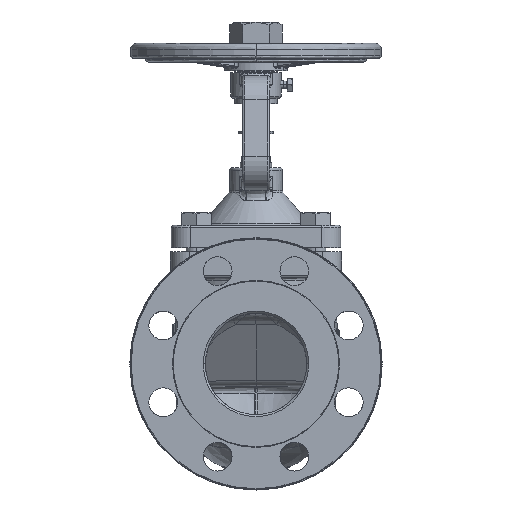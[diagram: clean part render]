
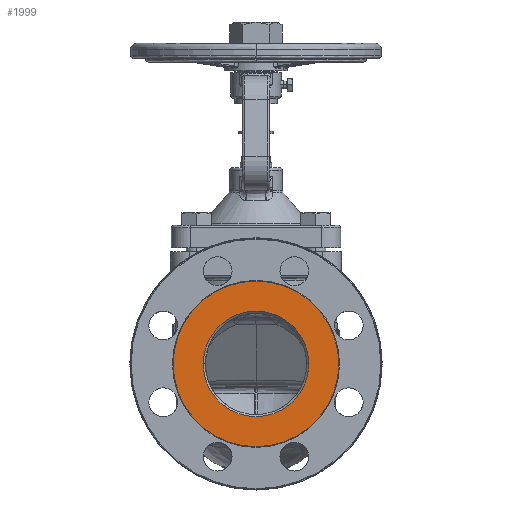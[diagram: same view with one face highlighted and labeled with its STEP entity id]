
A CAD part, left-side view. The second image highlights one B-rep face of the part: STEP entity #1999.
In plain terms, the highlighted planar face has unit normal (-1, 0, 0).
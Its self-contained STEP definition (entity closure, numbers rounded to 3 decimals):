
#1999=ADVANCED_FACE('',(#17693,#17694),#17692,.F.);
#17692=PLANE('',#48419);
#17693=FACE_OUTER_BOUND('',#48420,.T.);
#17694=FACE_BOUND('',#48421,.T.);
#48416=CARTESIAN_POINT('',(-159.,-124.315,142.));
#48417=DIRECTION('',(1.,0.,0.));
#48418=DIRECTION('',(0.,0.,-1.));
#48419=AXIS2_PLACEMENT_3D('',#48416,#48417,#48418);
#48420=EDGE_LOOP('',(#67622,#67623));
#48421=EDGE_LOOP('',(#67624,#67625));
#67622=ORIENTED_EDGE('',*,*,#74057,.F.);
#67623=ORIENTED_EDGE('',*,*,#74058,.F.);
#67624=ORIENTED_EDGE('',*,*,#74059,.T.);
#67625=ORIENTED_EDGE('',*,*,#74060,.T.);
#74057=EDGE_CURVE('',#101085,#101086,#101087,.T.);
#74058=EDGE_CURVE('',#101086,#101085,#101093,.T.);
#74059=EDGE_CURVE('',#101099,#101100,#101101,.T.);
#74060=EDGE_CURVE('',#101100,#101099,#101107,.T.);
#101085=VERTEX_POINT('',#133221);
#101086=VERTEX_POINT('',#133222);
#101087=CIRCLE('',#133226,66.);
#101093=CIRCLE('',#133230,66.);
#101099=VERTEX_POINT('',#133231);
#101100=VERTEX_POINT('',#133232);
#101101=CIRCLE('',#133236,42.);
#101107=CIRCLE('',#133240,42.);
#133221=CARTESIAN_POINT('',(-159.,0.,66.));
#133222=CARTESIAN_POINT('',(-159.,0.,-66.));
#133223=CARTESIAN_POINT('',(-159.,0.,0.));
#133224=DIRECTION('',(1.,0.,0.));
#133225=DIRECTION('',(0.,0.,-1.));
#133226=AXIS2_PLACEMENT_3D('',#133223,#133224,#133225);
#133227=CARTESIAN_POINT('',(-159.,0.,0.));
#133228=DIRECTION('',(1.,0.,0.));
#133229=DIRECTION('',(0.,0.,-1.));
#133230=AXIS2_PLACEMENT_3D('',#133227,#133228,#133229);
#133231=CARTESIAN_POINT('',(-159.,0.,-42.));
#133232=CARTESIAN_POINT('',(-159.,0.,42.));
#133233=CARTESIAN_POINT('',(-159.,0.,0.));
#133234=DIRECTION('',(1.,0.,0.));
#133235=DIRECTION('',(0.,0.,-1.));
#133236=AXIS2_PLACEMENT_3D('',#133233,#133234,#133235);
#133237=CARTESIAN_POINT('',(-159.,0.,0.));
#133238=DIRECTION('',(1.,0.,0.));
#133239=DIRECTION('',(0.,0.,-1.));
#133240=AXIS2_PLACEMENT_3D('',#133237,#133238,#133239);
